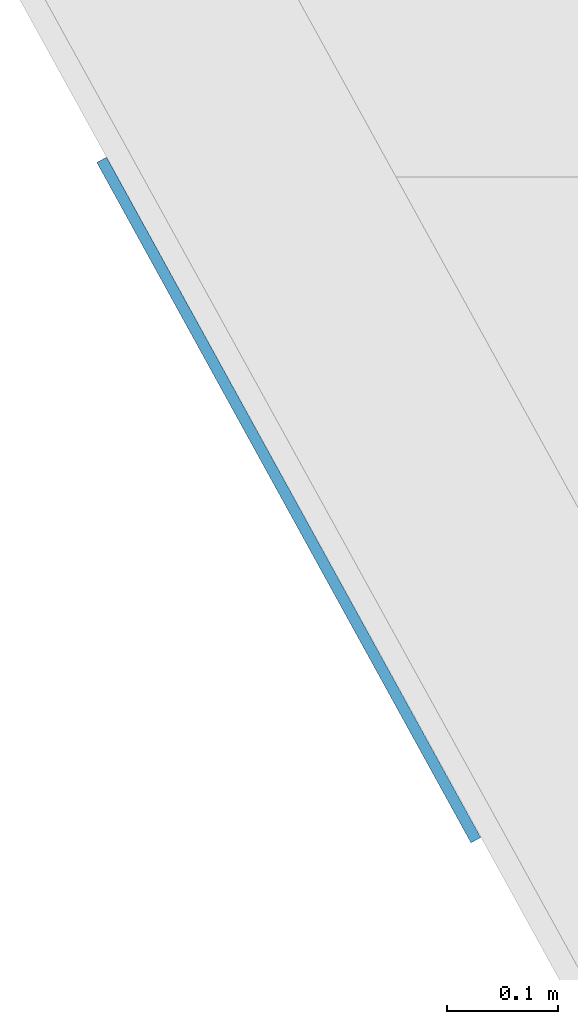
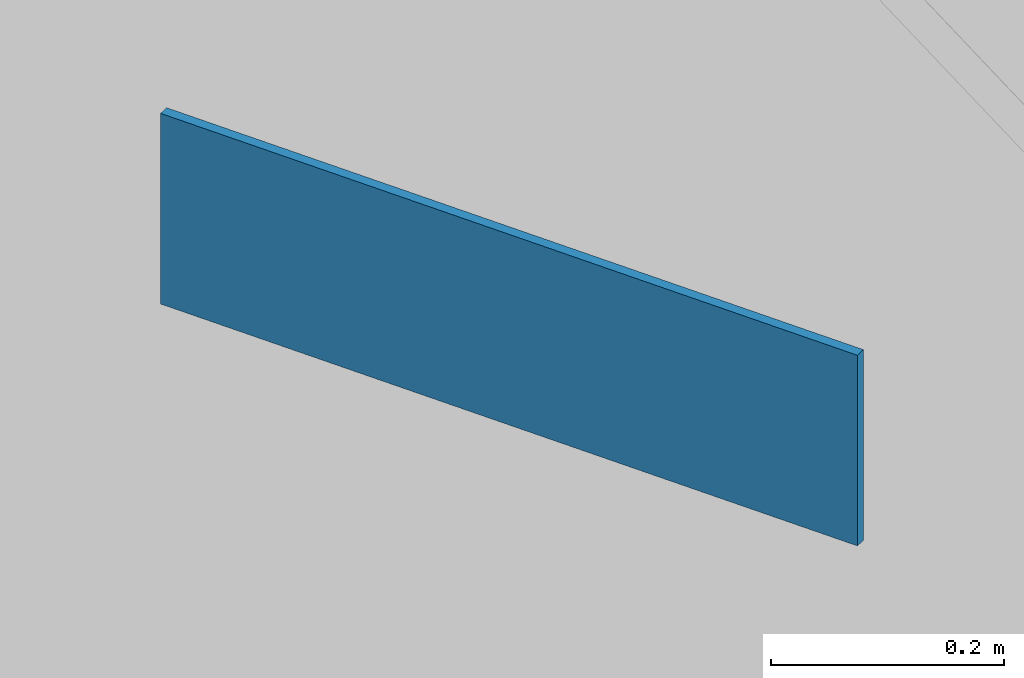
# One storey, part 42 of 194: 1 discrete accessory.
"""IFC2X3 building model written with IfcOpenShell, lengths in millimetres."""

from ifc_helpers import new_model, entity, si_unit, converted_unit, derived_unit, money_unit, direction, frame, origin_with_axes, place, context, subcontext, project, spatial, faceted_brep, source, transform, mapped, type_object, element, save


model = new_model("IFC2X3")

# Units and contexts
model_context = context("Model", 3, precision=1e-05, world=origin_with_axes(), true_north=direction((0.0, 1.0)))
body_context = subcontext(model_context, "Body", "Model", "MODEL_VIEW")
ifc_project = project(units=[si_unit("LENGTHUNIT", "METRE", prefix="MILLI"), si_unit("AREAUNIT", "SQUARE_METRE"), si_unit("VOLUMEUNIT", "CUBIC_METRE"), converted_unit("PLANEANGLEUNIT", "DEGREE", entity("IfcPlaneAngleMeasure", 0.0174532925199), si_unit("PLANEANGLEUNIT", "RADIAN"), dimensions=[0, 0, 0, 0, 0, 0, 0]), si_unit("SOLIDANGLEUNIT", "STERADIAN"), money_unit("EUR"), converted_unit("TIMEUNIT", "Year", entity("IfcTimeMeasure", 31556926.0), si_unit("TIMEUNIT", "SECOND"), dimensions=[0, 0, 1, 0, 0, 0, 0]), si_unit("MASSUNIT", "GRAM", prefix="KILO"), si_unit("THERMODYNAMICTEMPERATUREUNIT", "DEGREE_CELSIUS"), si_unit("LUMINOUSINTENSITYUNIT", "LUMEN"), si_unit("ENERGYUNIT", "JOULE", prefix="MEGA"), derived_unit("THERMALCONDUCTANCEUNIT", [(si_unit("POWERUNIT", "WATT"), 1), (si_unit("LENGTHUNIT", "METRE"), -1), (si_unit("THERMODYNAMICTEMPERATUREUNIT", "KELVIN"), -1)]), derived_unit("SPECIFICHEATCAPACITYUNIT", [(si_unit("ENERGYUNIT", "JOULE"), 1), (si_unit("MASSUNIT", "GRAM", prefix="KILO"), -1), (si_unit("THERMODYNAMICTEMPERATUREUNIT", "KELVIN"), -1)]), derived_unit("MASSDENSITYUNIT", [(si_unit("MASSUNIT", "GRAM", prefix="KILO"), 1), (si_unit("VOLUMEUNIT", "CUBIC_METRE"), -1)])], contexts=[model_context])

# Site, building, storey
site_placement = place(None, origin_with_axes())
site = spatial("IfcSite", under=ifc_project, at=site_placement, Name="Site", CompositionType="ELEMENT")
building_placement = place(site_placement, origin_with_axes())
building = spatial("IfcBuilding", under=site, at=building_placement, Name="Building", CompositionType="ELEMENT")
storey_placement = place(building_placement, frame((0.0, 0.0, 3000.0), z_axis=(0.0, 0.0, 1.0), x_axis=(1.0, 0.0, 0.0)))
storey = spatial("IfcBuildingStorey", under=building, at=storey_placement, Name="2 KORRUS", CompositionType="ELEMENT", Elevation=3000.0)

# Discrete accessory
discrete_accessory_type = type_object("IfcDiscreteAccessoryType", Name="Cube 22")
shared_shape = source(origin_with_axes(), body_context, "Body", "Brep", [
    faceted_brep([(10.0, 0.0, 0.0), (0.0, 0.0, 0.0), (0.0, 700.0, 0.0), (10.0, 700.0, 0.0), (10.0, 0.0, 200.0), (0.0, 0.0, 200.0), (0.0, 700.0, 200.0), (10.0, 700.0, 200.0)], [[[0, 1, 2, 3]], [[1, 0, 4, 5]], [[2, 1, 5, 6]], [[3, 2, 6, 7]], [[0, 3, 7, 4]], [[5, 4, 7, 6]]]),
])
discrete_accessory_placement = place(storey_placement, frame((-2960.82932786, 71501.6016297, 0.0), z_axis=(0.0, 0.0, 1.0), x_axis=(-0.876214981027, -0.481920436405, 0.0)))
element("IfcDiscreteAccessory", 1, at=discrete_accessory_placement, inside=storey, type_object=discrete_accessory_type, Name="FU - 001", context=body_context, shape_type="MappedRepresentation", body=[
    mapped(shared_shape, transform((0.0, 0.0, 0.0))),
])

save(model, "model.ifc")
